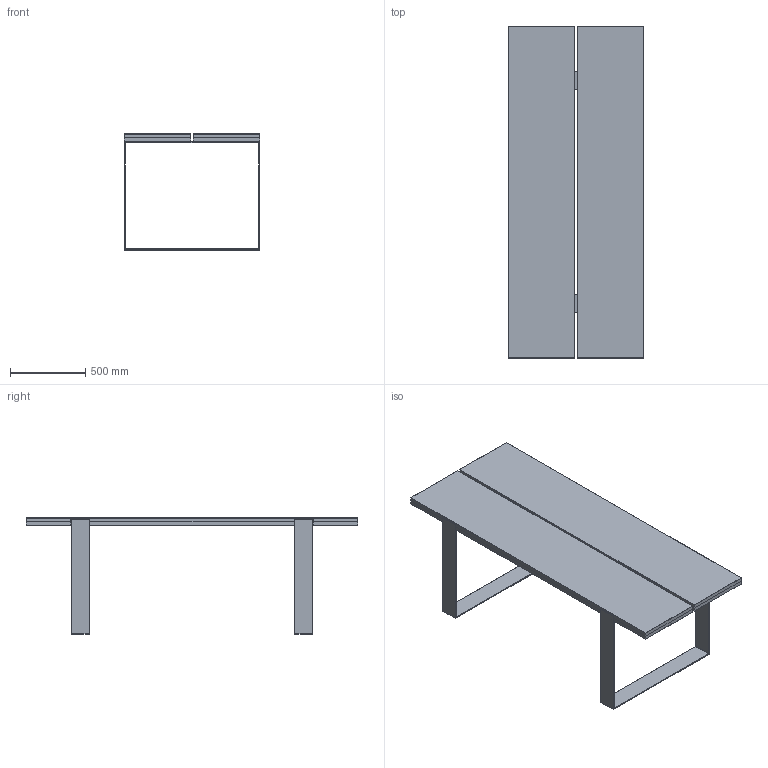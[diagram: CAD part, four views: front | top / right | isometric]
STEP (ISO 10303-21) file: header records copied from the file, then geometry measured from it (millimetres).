
FILE_DESCRIPTION(/* description */ (''),/* implementation_level */ '2;1');
FILE_NAME(/* name */ 'SABBATH',/* time_stamp */ '2021-10-18T23:16:55+02:00',/* author */ (''),/* organization */ (''),/* preprocessor_version */ 'ST-DEVELOPER v16.5',/* originating_system */ '',/* authorisation */ '');
FILE_SCHEMA (('AUTOMOTIVE_DESIGN'));
Length unit declared in the file: centimetre
Products named in the file (1): Document
Bounding box: 900 x 2200 x 769.85 mm (x, y, z)
Volume: 6291562.2 mm3; surface area: 6069251.5 mm2
Topology: 2 solids, 6 shells, 350 faces, 822 edges, 456 vertices
Faces by surface type: plane 158, bspline 96, cylinder 96
Entity records: 8740 total; most frequent: CARTESIAN_POINT 3483, ORIENTED_EDGE 1500, EDGE_CURVE 798, B_SPLINE_CURVE_WITH_KNOTS 590, VERTEX_POINT 456, EDGE_LOOP 354, ADVANCED_FACE 350, FACE_OUTER_BOUND 350
